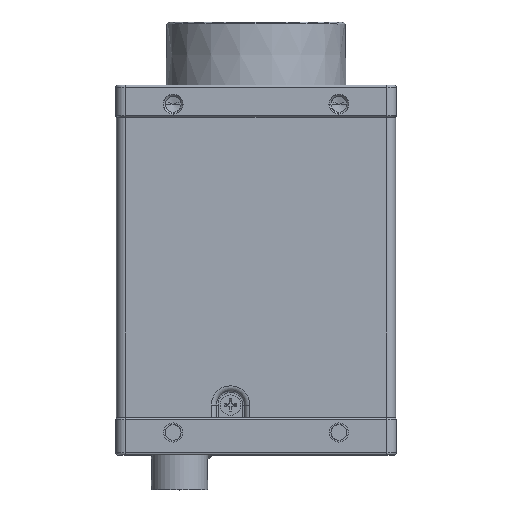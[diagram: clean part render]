
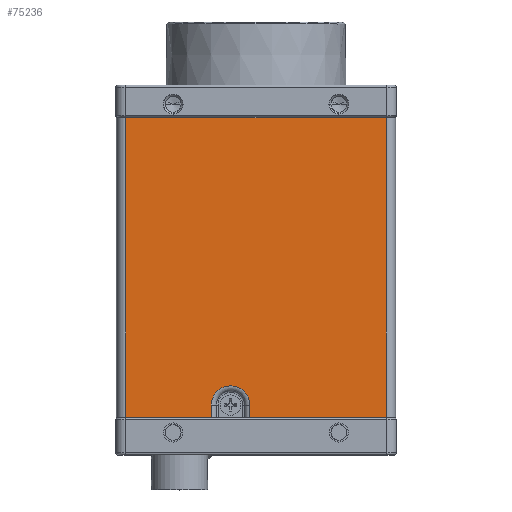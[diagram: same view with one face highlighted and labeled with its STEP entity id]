
A CAD part, top view. The second image highlights one B-rep face of the part: STEP entity #75236.
In plain terms, the highlighted planar face has unit normal (0, 0, 1).
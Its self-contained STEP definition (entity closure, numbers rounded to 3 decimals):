
#33874=DIRECTION('',(1.,0.,0.));
#33875=VECTOR('',#33874,13.392);
#33876=CARTESIAN_POINT('',(-28.9,1.425,20.37));
#33877=LINE('',#33876,#33875);
#33920=DIRECTION('',(1.,0.,0.));
#33921=VECTOR('',#33920,21.392);
#33922=CARTESIAN_POINT('',(-9.492,1.425,20.37));
#33923=LINE('',#33922,#33921);
#38973=DIRECTION('',(-1.,0.,0.));
#38974=VECTOR('',#38973,40.8);
#38975=CARTESIAN_POINT('',(11.9,48.425,20.37));
#38976=LINE('',#38975,#38974);
#48895=DIRECTION('',(0.,-1.,0.));
#48896=VECTOR('',#48895,47.);
#48897=CARTESIAN_POINT('',(-28.9,48.425,20.37));
#48898=LINE('',#48897,#48896);
#48902=CARTESIAN_POINT('',(-12.5,3.325,20.37));
#48903=DIRECTION('',(0.,0.,1.));
#48904=DIRECTION('',(1.,0.,0.));
#48905=AXIS2_PLACEMENT_3D('',#48902,#48903,#48904);
#48910=CARTESIAN_POINT('',(-12.5,3.325,20.37));
#48911=DIRECTION('',(0.,0.,1.));
#48912=DIRECTION('',(0.997,0.071,0.));
#48913=AXIS2_PLACEMENT_3D('',#48910,#48911,#48912);
#48918=DIRECTION('',(0.,-1.,0.));
#48919=VECTOR('',#48918,1.9);
#48920=CARTESIAN_POINT('',(-9.492,3.325,20.37));
#48921=LINE('',#48920,#48919);
#48985=DIRECTION('',(0.,1.,0.));
#48986=VECTOR('',#48985,1.9);
#48987=CARTESIAN_POINT('',(-15.508,1.425,20.37));
#48988=LINE('',#48987,#48986);
#49583=DIRECTION('',(0.,1.,0.));
#49584=VECTOR('',#49583,47.);
#49585=CARTESIAN_POINT('',(11.9,1.425,20.37));
#49586=LINE('',#49585,#49584);
#56196=CARTESIAN_POINT('',(11.9,48.425,20.37));
#56197=VERTEX_POINT('',#56196);
#56198=CARTESIAN_POINT('',(-28.9,48.425,20.37));
#56199=VERTEX_POINT('',#56198);
#56342=CARTESIAN_POINT('',(-28.9,1.425,20.37));
#56343=VERTEX_POINT('',#56342);
#56344=CARTESIAN_POINT('',(-15.508,1.425,20.37));
#56345=VERTEX_POINT('',#56344);
#56354=CARTESIAN_POINT('',(-9.492,1.425,20.37));
#56355=VERTEX_POINT('',#56354);
#56356=CARTESIAN_POINT('',(11.9,1.425,20.37));
#56357=VERTEX_POINT('',#56356);
#59018=CARTESIAN_POINT('',(-9.492,3.325,20.37));
#59019=VERTEX_POINT('',#59018);
#59020=CARTESIAN_POINT('',(-9.499,3.54,20.37));
#59021=CARTESIAN_POINT('',(-15.508,3.325,20.37));
#59022=VERTEX_POINT('',#59020);
#59023=VERTEX_POINT('',#59021);
#75215=CARTESIAN_POINT('',(-8.5,24.425,20.37));
#75216=DIRECTION('',(0.,0.,1.));
#75217=DIRECTION('',(0.,1.,0.));
#75218=AXIS2_PLACEMENT_3D('',#75215,#75216,#75217);
#75219=PLANE('',#75218);
#75221=ORIENTED_EDGE('',*,*,#75220,.F.);
#75223=ORIENTED_EDGE('',*,*,#75222,.T.);
#75225=ORIENTED_EDGE('',*,*,#75224,.T.);
#75227=ORIENTED_EDGE('',*,*,#75226,.F.);
#75228=ORIENTED_EDGE('',*,*,#60204,.F.);
#75229=ORIENTED_EDGE('',*,*,#75209,.F.);
#75230=ORIENTED_EDGE('',*,*,#65212,.F.);
#75232=ORIENTED_EDGE('',*,*,#75231,.F.);
#75233=ORIENTED_EDGE('',*,*,#60216,.F.);
#75234=EDGE_LOOP('',(#75221,#75223,#75225,#75227,#75228,#75229,#75230,#75232,
#75233));
#75235=FACE_OUTER_BOUND('',#75234,.F.);
#75236=ADVANCED_FACE('',(#75235),#75219,.T.);
#48906=CIRCLE('',#48905,3.008);
#48914=CIRCLE('',#48913,3.008);
#60204=EDGE_CURVE('',#56343,#56345,#33877,.T.);
#60216=EDGE_CURVE('',#56355,#56357,#33923,.T.);
#65212=EDGE_CURVE('',#56197,#56199,#38976,.T.);
#75209=EDGE_CURVE('',#56199,#56343,#48898,.T.);
#75220=EDGE_CURVE('',#59019,#56355,#48921,.T.);
#75222=EDGE_CURVE('',#59019,#59022,#48906,.T.);
#75224=EDGE_CURVE('',#59022,#59023,#48914,.T.);
#75226=EDGE_CURVE('',#56345,#59023,#48988,.T.);
#75231=EDGE_CURVE('',#56357,#56197,#49586,.T.);
